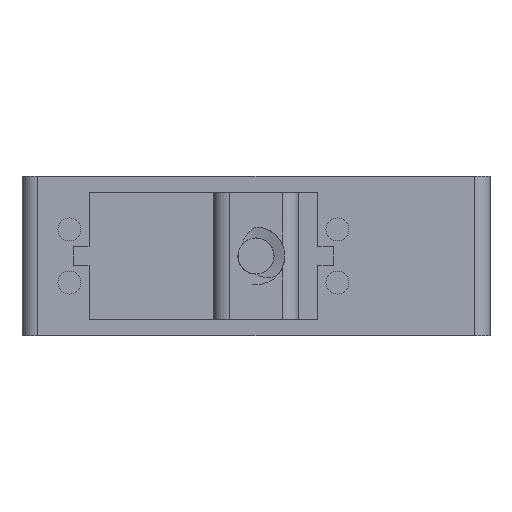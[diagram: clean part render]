
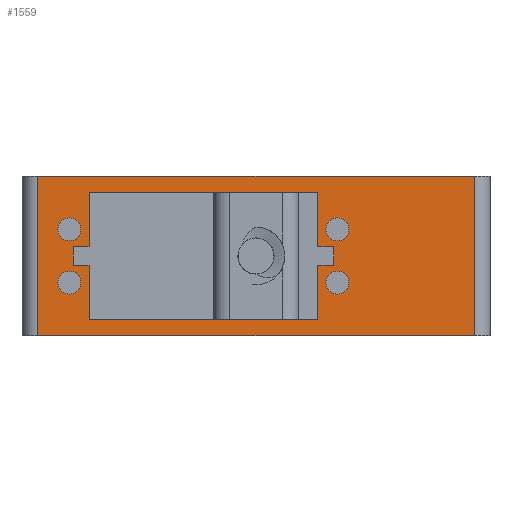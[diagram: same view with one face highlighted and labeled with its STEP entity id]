
A CAD part, front view. The second image highlights one B-rep face of the part: STEP entity #1559.
In plain terms, the highlighted planar face has unit normal (0, -1, 0).
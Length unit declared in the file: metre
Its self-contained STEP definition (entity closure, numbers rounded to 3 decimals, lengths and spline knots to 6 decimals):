
#71=CIRCLE('',#1677,0.00215);
#72=CIRCLE('',#1678,0.00215);
#73=CIRCLE('',#1679,0.00215);
#74=CIRCLE('',#1680,0.00215);
#214=ORIENTED_EDGE('',*,*,#656,.F.);
#215=ORIENTED_EDGE('',*,*,#657,.F.);
#216=ORIENTED_EDGE('',*,*,#658,.F.);
#217=ORIENTED_EDGE('',*,*,#659,.F.);
#218=ORIENTED_EDGE('',*,*,#549,.F.);
#219=ORIENTED_EDGE('',*,*,#660,.T.);
#220=ORIENTED_EDGE('',*,*,#599,.T.);
#221=ORIENTED_EDGE('',*,*,#661,.T.);
#222=ORIENTED_EDGE('',*,*,#662,.T.);
#223=ORIENTED_EDGE('',*,*,#663,.T.);
#224=ORIENTED_EDGE('',*,*,#664,.F.);
#225=ORIENTED_EDGE('',*,*,#665,.T.);
#226=ORIENTED_EDGE('',*,*,#666,.F.);
#227=ORIENTED_EDGE('',*,*,#667,.F.);
#228=ORIENTED_EDGE('',*,*,#668,.F.);
#229=ORIENTED_EDGE('',*,*,#669,.F.);
#230=ORIENTED_EDGE('',*,*,#670,.T.);
#231=ORIENTED_EDGE('',*,*,#671,.F.);
#232=ORIENTED_EDGE('',*,*,#672,.T.);
#233=ORIENTED_EDGE('',*,*,#673,.T.);
#549=EDGE_CURVE('',#771,#772,#926,.T.);
#599=EDGE_CURVE('',#821,#822,#967,.T.);
#656=EDGE_CURVE('',#876,#876,#71,.T.);
#657=EDGE_CURVE('',#877,#877,#72,.T.);
#658=EDGE_CURVE('',#878,#878,#73,.T.);
#659=EDGE_CURVE('',#879,#879,#74,.T.);
#660=EDGE_CURVE('',#771,#821,#1010,.T.);
#661=EDGE_CURVE('',#822,#772,#1011,.F.);
#662=EDGE_CURVE('',#880,#881,#1012,.T.);
#663=EDGE_CURVE('',#881,#882,#1013,.T.);
#664=EDGE_CURVE('',#883,#882,#1014,.T.);
#665=EDGE_CURVE('',#883,#884,#1015,.T.);
#666=EDGE_CURVE('',#885,#884,#1016,.T.);
#667=EDGE_CURVE('',#886,#885,#1017,.T.);
#668=EDGE_CURVE('',#887,#886,#1018,.T.);
#669=EDGE_CURVE('',#888,#887,#1019,.T.);
#670=EDGE_CURVE('',#888,#889,#1020,.T.);
#671=EDGE_CURVE('',#890,#889,#1021,.T.);
#672=EDGE_CURVE('',#890,#891,#1022,.T.);
#673=EDGE_CURVE('',#891,#880,#1023,.T.);
#771=VERTEX_POINT('',#2216);
#772=VERTEX_POINT('',#2218);
#821=VERTEX_POINT('',#2318);
#822=VERTEX_POINT('',#2319);
#876=VERTEX_POINT('',#2432);
#877=VERTEX_POINT('',#2434);
#878=VERTEX_POINT('',#2436);
#879=VERTEX_POINT('',#2438);
#880=VERTEX_POINT('',#2442);
#881=VERTEX_POINT('',#2443);
#882=VERTEX_POINT('',#2445);
#883=VERTEX_POINT('',#2447);
#884=VERTEX_POINT('',#2449);
#885=VERTEX_POINT('',#2451);
#886=VERTEX_POINT('',#2453);
#887=VERTEX_POINT('',#2455);
#888=VERTEX_POINT('',#2457);
#889=VERTEX_POINT('',#2459);
#890=VERTEX_POINT('',#2461);
#891=VERTEX_POINT('',#2463);
#926=LINE('',#2217,#1090);
#967=LINE('',#2317,#1131);
#1010=LINE('',#2439,#1174);
#1011=LINE('',#2440,#1175);
#1012=LINE('',#2441,#1176);
#1013=LINE('',#2444,#1177);
#1014=LINE('',#2446,#1178);
#1015=LINE('',#2448,#1179);
#1016=LINE('',#2450,#1180);
#1017=LINE('',#2452,#1181);
#1018=LINE('',#2454,#1182);
#1019=LINE('',#2456,#1183);
#1020=LINE('',#2458,#1184);
#1021=LINE('',#2460,#1185);
#1022=LINE('',#2462,#1186);
#1023=LINE('',#2464,#1187);
#1090=VECTOR('',#1790,1.);
#1131=VECTOR('',#1851,1.);
#1174=VECTOR('',#1934,1.);
#1175=VECTOR('',#1935,1.);
#1176=VECTOR('',#1936,1.);
#1177=VECTOR('',#1937,1.);
#1178=VECTOR('',#1938,1.);
#1179=VECTOR('',#1939,1.);
#1180=VECTOR('',#1940,1.);
#1181=VECTOR('',#1941,1.);
#1182=VECTOR('',#1942,1.);
#1183=VECTOR('',#1943,1.);
#1184=VECTOR('',#1944,1.);
#1185=VECTOR('',#1945,1.);
#1186=VECTOR('',#1946,1.);
#1187=VECTOR('',#1947,1.);
#1264=EDGE_LOOP('',(#214));
#1265=EDGE_LOOP('',(#215));
#1266=EDGE_LOOP('',(#216));
#1267=EDGE_LOOP('',(#217));
#1268=EDGE_LOOP('',(#218,#219,#220,#221));
#1269=EDGE_LOOP('',(#222,#223,#224,#225,#226,#227,#228,#229,#230,#231,#232,
#233));
#1392=FACE_BOUND('',#1264,.T.);
#1393=FACE_BOUND('',#1265,.T.);
#1394=FACE_BOUND('',#1266,.T.);
#1395=FACE_BOUND('',#1267,.T.);
#1396=FACE_BOUND('',#1268,.T.);
#1397=FACE_BOUND('',#1269,.T.);
#1505=PLANE('',#1676);
#1559=ADVANCED_FACE('',(#1392,#1393,#1394,#1395,#1396,#1397),#1505,.F.);
#1676=AXIS2_PLACEMENT_3D('',#2430,#1924,#1925);
#1677=AXIS2_PLACEMENT_3D('',#2431,#1926,#1927);
#1678=AXIS2_PLACEMENT_3D('',#2433,#1928,#1929);
#1679=AXIS2_PLACEMENT_3D('',#2435,#1930,#1931);
#1680=AXIS2_PLACEMENT_3D('',#2437,#1932,#1933);
#1790=DIRECTION('',(1.,0.,0.));
#1851=DIRECTION('',(1.,0.,0.));
#1924=DIRECTION('',(0.,1.,0.));
#1925=DIRECTION('',(0.,0.,1.));
#1926=DIRECTION('',(0.,-1.,0.));
#1927=DIRECTION('',(0.,0.,-1.));
#1928=DIRECTION('',(0.,-1.,0.));
#1929=DIRECTION('',(0.,0.,-1.));
#1930=DIRECTION('',(0.,-1.,0.));
#1931=DIRECTION('',(0.,0.,-1.));
#1932=DIRECTION('',(0.,-1.,0.));
#1933=DIRECTION('',(0.,0.,-1.));
#1934=DIRECTION('',(0.,0.,-1.));
#1935=DIRECTION('',(0.,0.,-1.));
#1936=DIRECTION('',(1.,0.,0.));
#1937=DIRECTION('',(0.,0.,-1.));
#1938=DIRECTION('',(1.,0.,0.));
#1939=DIRECTION('',(0.,0.,-1.));
#1940=DIRECTION('',(1.,0.,0.));
#1941=DIRECTION('',(0.,0.,-1.));
#1942=DIRECTION('',(1.,0.,0.));
#1943=DIRECTION('',(0.,0.,-1.));
#1944=DIRECTION('',(1.,0.,0.));
#1945=DIRECTION('',(0.,0.,-1.));
#1946=DIRECTION('',(1.,0.,0.));
#1947=DIRECTION('',(0.,0.,-1.));
#2216=CARTESIAN_POINT('',(-0.059411,-0.128119,0.03));
#2217=CARTESIAN_POINT('',(-0.018411,-0.128119,0.03));
#2218=CARTESIAN_POINT('',(0.022589,-0.128119,0.03));
#2317=CARTESIAN_POINT('',(-0.018411,-0.128119,0.));
#2318=CARTESIAN_POINT('',(-0.059411,-0.128119,0.));
#2319=CARTESIAN_POINT('',(0.022589,-0.128119,0.));
#2430=CARTESIAN_POINT('',(-0.018411,-0.128119,0.03));
#2431=CARTESIAN_POINT('',(-0.053511,-0.128119,0.01));
#2432=CARTESIAN_POINT('',(-0.053511,-0.128119,0.00785));
#2433=CARTESIAN_POINT('',(-0.053511,-0.128119,0.02));
#2434=CARTESIAN_POINT('',(-0.053511,-0.128119,0.01785));
#2435=CARTESIAN_POINT('',(-0.003111,-0.128119,0.01));
#2436=CARTESIAN_POINT('',(-0.003111,-0.128119,0.00785));
#2437=CARTESIAN_POINT('',(-0.003111,-0.128119,0.02));
#2438=CARTESIAN_POINT('',(-0.003111,-0.128119,0.01785));
#2439=CARTESIAN_POINT('',(-0.059411,-0.128119,0.03));
#2440=CARTESIAN_POINT('',(0.022589,-0.128119,0.03));
#2441=CARTESIAN_POINT('',(-0.005311,-0.128119,0.01675));
#2442=CARTESIAN_POINT('',(-0.006811,-0.128119,0.01675));
#2443=CARTESIAN_POINT('',(-0.003811,-0.128119,0.01675));
#2444=CARTESIAN_POINT('',(-0.003811,-0.128119,0.015));
#2445=CARTESIAN_POINT('',(-0.003811,-0.128119,0.01325));
#2446=CARTESIAN_POINT('',(-0.005311,-0.128119,0.01325));
#2447=CARTESIAN_POINT('',(-0.006811,-0.128119,0.01325));
#2448=CARTESIAN_POINT('',(-0.006811,-0.128119,0.008125));
#2449=CARTESIAN_POINT('',(-0.006811,-0.128119,0.003));
#2450=CARTESIAN_POINT('',(-0.028311,-0.128119,0.003));
#2451=CARTESIAN_POINT('',(-0.049811,-0.128119,0.003));
#2452=CARTESIAN_POINT('',(-0.049811,-0.128119,0.008125));
#2453=CARTESIAN_POINT('',(-0.049811,-0.128119,0.01325));
#2454=CARTESIAN_POINT('',(-0.051311,-0.128119,0.01325));
#2455=CARTESIAN_POINT('',(-0.052811,-0.128119,0.01325));
#2456=CARTESIAN_POINT('',(-0.052811,-0.128119,0.015));
#2457=CARTESIAN_POINT('',(-0.052811,-0.128119,0.01675));
#2458=CARTESIAN_POINT('',(-0.051311,-0.128119,0.01675));
#2459=CARTESIAN_POINT('',(-0.049811,-0.128119,0.01675));
#2460=CARTESIAN_POINT('',(-0.049811,-0.128119,0.021875));
#2461=CARTESIAN_POINT('',(-0.049811,-0.128119,0.027));
#2462=CARTESIAN_POINT('',(-0.028311,-0.128119,0.027));
#2463=CARTESIAN_POINT('',(-0.006811,-0.128119,0.027));
#2464=CARTESIAN_POINT('',(-0.006811,-0.128119,0.021875));
